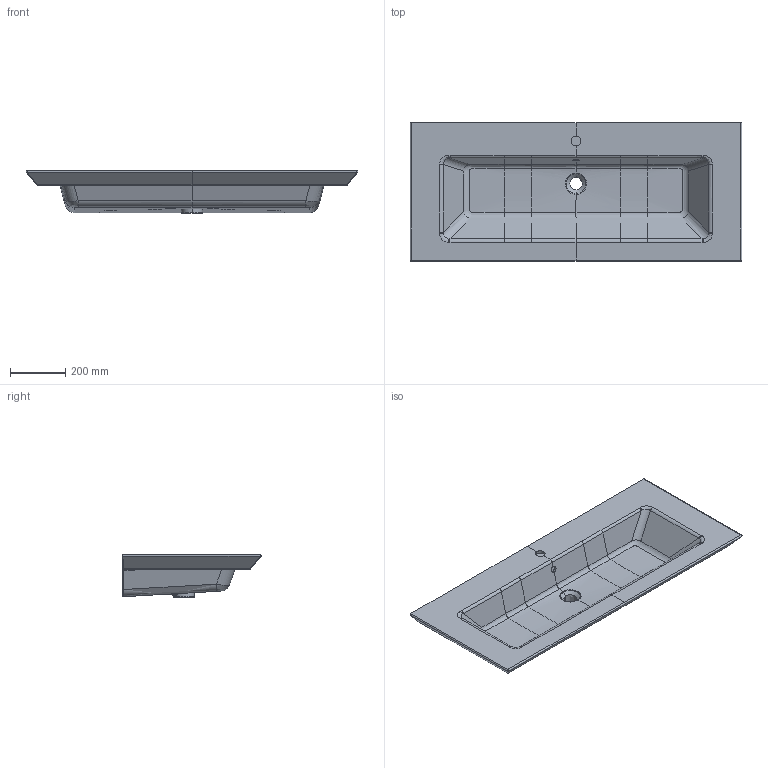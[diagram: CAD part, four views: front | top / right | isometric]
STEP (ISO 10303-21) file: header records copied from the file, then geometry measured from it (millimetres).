
FILE_DESCRIPTION(/* description */ (''),/* implementation_level */ '2;1');
FILE_NAME(/* name */ '4153C5_Legato_VWB_120.stp',/* time_stamp */ '2019-01-04T11:28:58+01:00',/* author */ (''),/* organization */ (''),/* preprocessor_version */ 'ST-DEVELOPER v16',/* originating_system */ 'SIEMENS PLM Software NX 10.0',/* authorisation */ '');
FILE_SCHEMA (('AUTOMOTIVE_DESIGN { 1 0 10303 214 3 1 1 1 }'));
Length unit declared in the file: millimetre
Products named in the file (1): Sier1EF01419slwo
Bounding box: 1200.84 x 500.42 x 155 mm (x, y, z)
Volume: 38356225.2 mm3; surface area: 1637678.9 mm2
Topology: 1 solids, 1 shells, 181 faces, 479 edges, 291 vertices
Faces by surface type: bspline 83, plane 48, cylinder 44, extrusion 2, cone 2, sphere 2
Full cylindrical faces by diameter (mm): 35 x1
Entity records: 11102 total; most frequent: CARTESIAN_POINT 7599, ORIENTED_EDGE 936, EDGE_CURVE 468, DIRECTION 426, VERTEX_POINT 290, B_SPLINE_CURVE_WITH_KNOTS 232, EDGE_LOOP 184, ADVANCED_FACE 181
